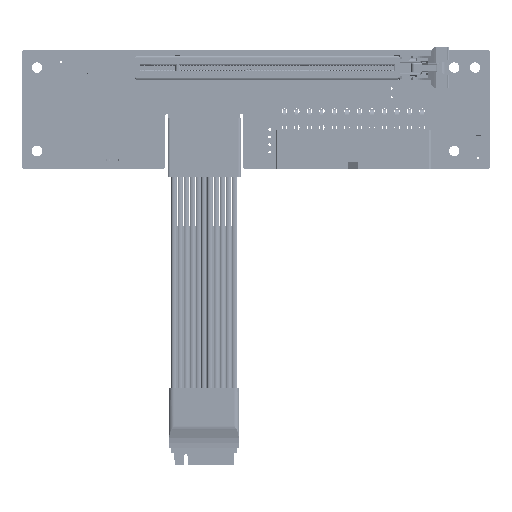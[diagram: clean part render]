
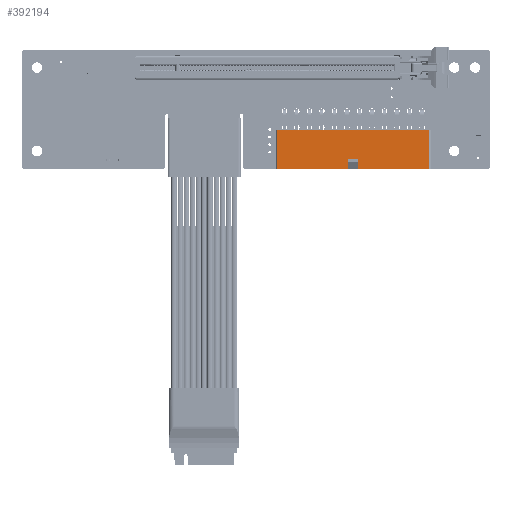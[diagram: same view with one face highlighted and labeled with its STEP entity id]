
A CAD part, top view. The second image highlights one B-rep face of the part: STEP entity #392194.
In plain terms, the highlighted planar face has unit normal (0, 0, 1) as drawn and (0, 1, 0) by its records, which use the part's own axes.
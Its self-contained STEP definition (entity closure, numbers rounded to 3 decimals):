
#372384 = VERTEX_POINT('',#372385);
#372385 = CARTESIAN_POINT('',(-1.7,10.,-3.05));
#372402 = VERTEX_POINT('',#372403);
#372403 = CARTESIAN_POINT('',(1.7,10.,-3.05));
#372409 = EDGE_CURVE('',#372384,#372402,#372410,.T.);
#372410 = LINE('',#372411,#372412);
#372411 = CARTESIAN_POINT('',(-1.7,10.,-3.05));
#372412 = VECTOR('',#372413,1.);
#372413 = DIRECTION('',(1.,0.,0.));
#372457 = VERTEX_POINT('',#372458);
#372458 = CARTESIAN_POINT('',(1.7,10.,0.));
#372464 = EDGE_CURVE('',#372457,#372402,#372465,.T.);
#372465 = LINE('',#372466,#372467);
#372466 = CARTESIAN_POINT('',(1.7,10.,0.));
#372467 = VECTOR('',#372468,1.);
#372468 = DIRECTION('',(0.,0.,-1.));
#390326 = VERTEX_POINT('',#390327);
#390327 = CARTESIAN_POINT('',(25.5,10.,-12.8));
#390336 = EDGE_CURVE('',#390326,#390337,#390339,.T.);
#390337 = VERTEX_POINT('',#390338);
#390338 = CARTESIAN_POINT('',(25.5,10.,0.));
#390339 = LINE('',#390340,#390341);
#390340 = CARTESIAN_POINT('',(25.5,10.,-12.8));
#390341 = VECTOR('',#390342,1.);
#390342 = DIRECTION('',(0.,0.,1.));
#390976 = VERTEX_POINT('',#390977);
#390977 = CARTESIAN_POINT('',(-25.5,10.,-12.8));
#390984 = EDGE_CURVE('',#390976,#390326,#390985,.T.);
#390985 = LINE('',#390986,#390987);
#390986 = CARTESIAN_POINT('',(-25.5,10.,-12.8));
#390987 = VECTOR('',#390988,1.);
#390988 = DIRECTION('',(1.,0.,0.));
#392176 = VERTEX_POINT('',#392177);
#392177 = CARTESIAN_POINT('',(-25.5,10.,0.));
#392184 = EDGE_CURVE('',#390976,#392176,#392185,.T.);
#392185 = LINE('',#392186,#392187);
#392186 = CARTESIAN_POINT('',(-25.5,10.,-12.8));
#392187 = VECTOR('',#392188,1.);
#392188 = DIRECTION('',(0.,0.,1.));
#392194 = ADVANCED_FACE('',(#392195),#392222,.T.);
#392195 = FACE_BOUND('',#392196,.T.);
#392196 = EDGE_LOOP('',(#392197,#392198,#392199,#392205,#392206,#392207,
    #392208,#392216));
#392197 = ORIENTED_EDGE('',*,*,#372409,.T.);
#392198 = ORIENTED_EDGE('',*,*,#372464,.F.);
#392199 = ORIENTED_EDGE('',*,*,#392200,.T.);
#392200 = EDGE_CURVE('',#372457,#390337,#392201,.T.);
#392201 = LINE('',#392202,#392203);
#392202 = CARTESIAN_POINT('',(1.7,10.,0.));
#392203 = VECTOR('',#392204,1.);
#392204 = DIRECTION('',(1.,0.,0.));
#392205 = ORIENTED_EDGE('',*,*,#390336,.F.);
#392206 = ORIENTED_EDGE('',*,*,#390984,.F.);
#392207 = ORIENTED_EDGE('',*,*,#392184,.T.);
#392208 = ORIENTED_EDGE('',*,*,#392209,.T.);
#392209 = EDGE_CURVE('',#392176,#392210,#392212,.T.);
#392210 = VERTEX_POINT('',#392211);
#392211 = CARTESIAN_POINT('',(-1.7,10.,0.));
#392212 = LINE('',#392213,#392214);
#392213 = CARTESIAN_POINT('',(-25.5,10.,0.));
#392214 = VECTOR('',#392215,1.);
#392215 = DIRECTION('',(1.,0.,0.));
#392216 = ORIENTED_EDGE('',*,*,#392217,.T.);
#392217 = EDGE_CURVE('',#392210,#372384,#392218,.T.);
#392218 = LINE('',#392219,#392220);
#392219 = CARTESIAN_POINT('',(-1.7,10.,0.));
#392220 = VECTOR('',#392221,1.);
#392221 = DIRECTION('',(0.,0.,-1.));
#392222 = PLANE('',#392223);
#392223 = AXIS2_PLACEMENT_3D('',#392224,#392225,#392226);
#392224 = CARTESIAN_POINT('',(-25.8,10.,0.));
#392225 = DIRECTION('',(-0.,1.,0.));
#392226 = DIRECTION('',(1.,0.,0.));
